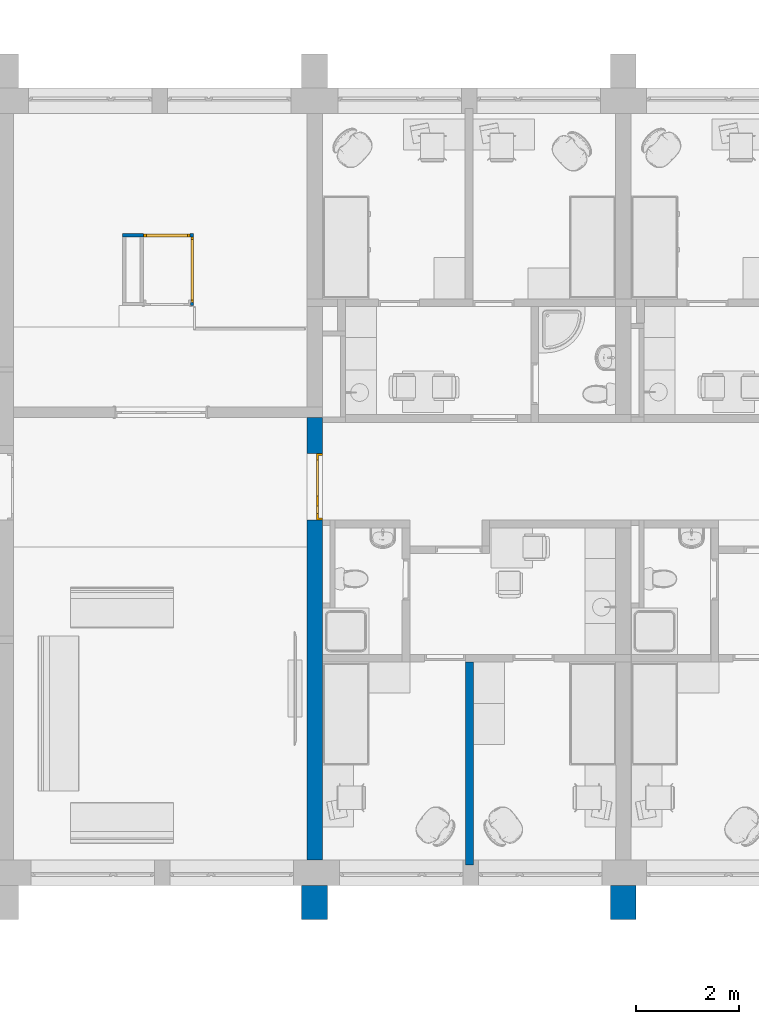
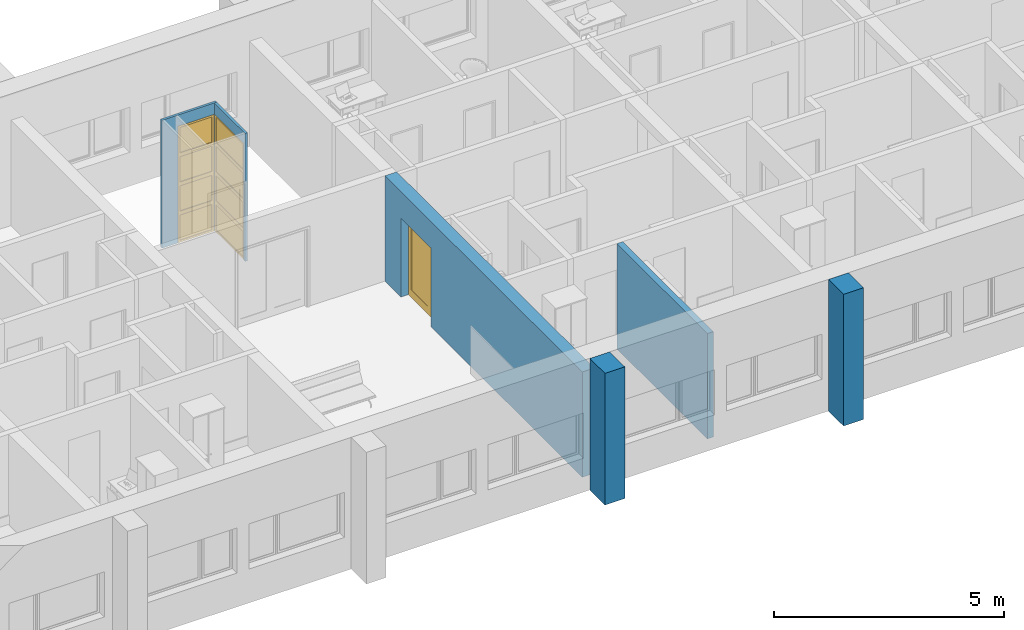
# One storey, part 15 of 152: 6 walls, 2 windows, 1 door, 3 openings.
"""IFC2X3 building model written with IfcOpenShell, lengths in millimetres."""

from ifc_helpers import new_model, entity, si_unit, converted_unit, money_unit, direction, frame, origin_with_axes, place, context, subcontext, project, spatial, polyline, outline, extrude, open_shell, faceted_brep, surface_model, source, transform, mapped, material, material_list, layer, layer_set, layer_usage, type_object, element, fill, save


model = new_model("IFC2X3")

# Units and contexts
model_context = context("Model", 3, precision=1e-05, world=origin_with_axes(), true_north=direction((0.0, 1.0)))
body_context = subcontext(model_context, "Body", "Model", "MODEL_VIEW")
ifc_project = project(units=[si_unit("LENGTHUNIT", "METRE", prefix="MILLI"), si_unit("AREAUNIT", "SQUARE_METRE"), si_unit("VOLUMEUNIT", "CUBIC_METRE"), converted_unit("PLANEANGLEUNIT", "DEGREE", entity("IfcPlaneAngleMeasure", 0.0174532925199), si_unit("PLANEANGLEUNIT", "RADIAN"), dimensions=[0, 0, 0, 0, 0, 0, 0]), si_unit("SOLIDANGLEUNIT", "STERADIAN"), money_unit("USD"), converted_unit("TIMEUNIT", "Year", entity("IfcTimeMeasure", 31556926.0), si_unit("TIMEUNIT", "SECOND"), dimensions=[0, 0, 0, 0, 0, 0, 0]), si_unit("MASSUNIT", "GRAM"), si_unit("THERMODYNAMICTEMPERATUREUNIT", "DEGREE_CELSIUS"), si_unit("LUMINOUSINTENSITYUNIT", "LUMEN")], contexts=[model_context])

# Site, building, storey
site_placement = place(None, origin_with_axes())
site = spatial("IfcSite", under=ifc_project, at=site_placement, Name="Site", CompositionType="ELEMENT")
building_placement = place(site_placement, origin_with_axes())
building = spatial("IfcBuilding", under=site, at=building_placement, Name="Building", CompositionType="ELEMENT")
storey_placement = place(building_placement, frame((0.0, 0.0, 9500.0), z_axis=(0.0, 0.0, 1.0), x_axis=(1.0, 0.0, 0.0)))
storey = spatial("IfcBuildingStorey", under=building, at=storey_placement, Name="5KORRUS", CompositionType="ELEMENT", Elevation=9500.0)

# Walls
ifc_material_1 = material(Name="Olemasolevad seinad tellis, uus viimistlus")
ifc_layer_1 = layer(ifc_material_1, 500.0, ventilated="UNKNOWN")
ifc_layer_set_1 = layer_set([ifc_layer_1], Name="Olemasolevad seinad tellis, uus viimistlus 500")
ifc_layer_usage_1 = layer_usage(ifc_layer_set_1, "AXIS2", "POSITIVE", -100.0)
wall_type_1 = type_object("IfcWallType", Name="Olemasolevad seinad tellis, uus viimistlus 500", PredefinedType="NOTDEFINED")
wall_1_placement = place(storey_placement, frame((-5990.29670331, -20796.6419407, 0.0), z_axis=(0.0, 0.0, 1.0), x_axis=(0.0, 1.0, 0.0)))
element("IfcWallStandardCase", 1, at=wall_1_placement, inside=storey, type_object=wall_type_1, material=ifc_layer_usage_1, Name="VS1", ObjectType="VS1", context=body_context, shape_type="SweptSolid", body=[
    extrude(outline(polyline([(0.0, -100.0), (657.402041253, -100.0), (657.402041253, 400.0), (0.0, 400.0), (0.0, -100.0)])), origin_with_axes(), (0.0, 0.0, 1.0), 3500.0),
])
ifc_layer_usage_2 = layer_usage(ifc_layer_set_1, "AXIS2", "POSITIVE", -100.0)
wall_2_placement = place(storey_placement, frame((9.70329668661, -20796.6419407, 0.0), z_axis=(0.0, 0.0, 1.0), x_axis=(0.0, 1.0, 0.0)))
element("IfcWallStandardCase", 2, at=wall_2_placement, inside=storey, type_object=wall_type_1, material=ifc_layer_usage_2, Name="VS1", ObjectType="VS1", context=body_context, shape_type="SweptSolid", body=[
    extrude(outline(polyline([(0.0, -100.0), (657.402041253, -100.0), (657.402041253, 400.0), (0.0, 400.0), (0.0, -100.0)])), origin_with_axes(), (0.0, 0.0, 1.0), 3500.0),
])
ifc_material_2 = material(Name="UmbKipsplaat")
ifc_layer_2 = layer(ifc_material_2, 13.0, ventilated="UNKNOWN")
ifc_layer_3 = layer(ifc_material_2, 13.0, ventilated="UNKNOWN")
ifc_material_3 = material(Name="SOOJUSTUS MINERAALVILL")
ifc_layer_4 = layer(ifc_material_3, 98.0, ventilated="UNKNOWN")
ifc_layer_5 = layer(ifc_material_2, 13.0, ventilated="UNKNOWN")
ifc_layer_6 = layer(ifc_material_2, 13.0, ventilated="UNKNOWN")
ifc_layer_set_2 = layer_set([ifc_layer_2, ifc_layer_3, ifc_layer_4, ifc_layer_5, ifc_layer_6], Name="kipssein150")
ifc_layer_usage_3 = layer_usage(ifc_layer_set_2, "AXIS2", "POSITIVE", -150.0)
wall_type_2 = type_object("IfcWallType", Name="kipssein150 150", PredefinedType="NOTDEFINED")
wall_3_placement = place(storey_placement, frame((-3203.00830795, -19739.2398994, 0.0), z_axis=(0.0, 0.0, 1.0), x_axis=(0.0, 1.0, 0.0)))
element("IfcWallStandardCase", 3, at=wall_3_placement, inside=storey, type_object=wall_type_2, material=ifc_layer_usage_3, Name="SS1", ObjectType="SS1", context=body_context, shape_type="SweptSolid", body=[
    extrude(outline(polyline([(0.0, -150.0), (3942.67282873, -150.0), (3942.67282873, 0.0), (0.0, 0.0), (0.0, -150.0)])), origin_with_axes(), (0.0, 0.0, 1.0), 2800.0),
])

# Wall, opening, door
ifc_material_4 = material(Name="Olemasolevad seinad tellis, uus viimistlus")
ifc_layer_7 = layer(ifc_material_4, 300.0, ventilated="UNKNOWN")
ifc_layer_set_3 = layer_set([ifc_layer_7], Name="Olemasolevad seinad tellis, uus viimistlus  300")
ifc_layer_usage_4 = layer_usage(ifc_layer_set_3, "AXIS2", "POSITIVE", 0.0)
wall_type_3 = type_object("IfcWallType", Name="Olemasolevad seinad tellis, uus viimistlus  300", PredefinedType="NOTDEFINED")
wall_4_placement = place(storey_placement, frame((-5990.29670331, -19639.2398994, 0.0), z_axis=(0.0, 0.0, 1.0), x_axis=(0.0, 1.0, 0.0)))
wall_4 = element("IfcWallStandardCase", 4, at=wall_4_placement, inside=storey, type_object=wall_type_3, material=ifc_layer_usage_4, Name="KS1", ObjectType="KS1", context=body_context, shape_type="SweptSolid", body=[
    extrude(outline(polyline([(0.0, 0.0), (8599.63579061, 0.0), (8599.63579061, 300.0), (0.0, 300.0), (0.0, 0.0)])), origin_with_axes(), (0.0, 0.0, 1.0), 2800.0),
])
opening_1_placement = place(wall_4_placement, frame((7250.0, 0.0, 0.0), z_axis=(0.0, 0.0, 1.0), x_axis=(1.0, 0.0, 0.0)))
opening_1 = element("IfcOpeningElement", 5, at=opening_1_placement, cuts=wall_4, Name="SU4-22", context=body_context, shape_type="SweptSolid", body=[
    extrude(outline(polyline([(-650.0, 0.0), (650.0, 0.0), (650.0, 2100.0), (-650.0, 2100.0), (-650.0, 0.0)])), frame((0.0, 300.0, 0.0), z_axis=(0.0, -1.0, 0.0), x_axis=(1.0, 0.0, 0.0)), (0.0, 0.0, 1.0), 900.0),
])
ifc_material_5 = material(Name="Background")
ifc_material_list = material_list([ifc_material_5])
door_style = type_object("IfcDoorStyle", Name="Double Door Asymmetric 19", ConstructionType="NOTDEFINED", OperationType="DOUBLE_DOOR_SINGLE_SWING", ParameterTakesPrecedence=False, Sizeable=False)
shared_shape_1 = source(origin_with_axes(), body_context, "Body", "SurfaceModel", [
    faceted_brep([(-610.0, -225.0, 0.0), (-610.0, -225.0, 2060.0), (-610.0, -300.0, 2060.0), (-610.0, -300.0, 0.0), (-622.0, -225.0, 2060.0), (-622.0, -225.0, 0.0), (-622.0, -185.0, 2060.0), (-650.0, -185.0, 2060.0), (-650.0, -300.0, 2060.0), (-650.0, -300.0, 0.0), (-650.0, -185.0, 0.0), (-622.0, -185.0, 0.0)], [[[0, 1, 2, 3]], [[4, 1, 0, 5]], [[4, 6, 7, 8, 2, 1]], [[2, 8, 9, 3]], [[5, 0, 3, 9, 10, 11]], [[6, 4, 5, 11]], [[6, 11, 10, 7]], [[9, 8, 7, 10]]]),
    faceted_brep([(622.0, -225.0, 2060.0), (610.0, -225.0, 2060.0), (610.0, -300.0, 2060.0), (650.0, -300.0, 2060.0), (650.0, -185.0, 2060.0), (622.0, -185.0, 2060.0), (622.0, -225.0, 0.0), (610.0, -225.0, 0.0), (610.0, -300.0, 0.0), (650.0, -300.0, 0.0), (650.0, -185.0, 0.0), (622.0, -185.0, 0.0)], [[[0, 1, 2, 3, 4, 5]], [[1, 0, 6, 7]], [[1, 7, 8, 2]], [[2, 8, 9, 3]], [[3, 9, 10, 4]], [[11, 5, 4, 10]], [[0, 5, 11, 6]], [[6, 11, 10, 9, 8, 7]]]),
    faceted_brep([(-622.0, -185.0, 2072.0), (-622.0, -185.0, 2060.0), (-650.0, -185.0, 2060.0), (-650.0, -185.0, 2100.0), (650.0, -185.0, 2100.0), (650.0, -185.0, 2060.0), (622.0, -185.0, 2060.0), (622.0, -185.0, 2072.0), (-622.0, -225.0, 2072.0), (-622.0, -225.0, 2060.0), (-610.0, -225.0, 2060.0), (-610.0, -300.0, 2060.0), (-650.0, -300.0, 2060.0), (-650.0, -300.0, 2100.0), (650.0, -300.0, 2100.0), (650.0, -300.0, 2060.0), (622.0, -225.0, 2060.0), (610.0, -300.0, 2060.0), (610.0, -225.0, 2060.0), (622.0, -225.0, 2072.0)], [[[0, 1, 2, 3, 4, 5, 6, 7]], [[1, 0, 8, 9]], [[9, 10, 11, 12, 2, 1]], [[12, 13, 3, 2]], [[13, 14, 4, 3]], [[14, 15, 5, 4]], [[16, 6, 5, 15, 17, 18]], [[7, 6, 16, 19]], [[0, 7, 19, 8]], [[16, 18, 10, 9, 8, 19]], [[10, 18, 17, 11]], [[15, 14, 13, 12, 11, 17]]]),
    faceted_brep([(622.0, -185.0, 200.0), (622.0, -225.0, 200.0), (522.0, -225.0, 200.0), (522.0, -185.0, 200.0), (622.0, -185.0, 1972.0), (622.0, -225.0, 1972.0), (522.0, -225.0, 1972.0), (522.0, -185.0, 1972.0)], [[[0, 1, 2, 3]], [[4, 5, 1, 0]], [[1, 5, 6, 2]], [[3, 2, 6, 7]], [[0, 3, 7, 4]], [[7, 6, 5, 4]]]),
    faceted_brep([(-278.0, -185.0, 200.0), (-278.0, -225.0, 200.0), (-278.0, -225.0, 1972.0), (-278.0, -185.0, 1972.0), (-178.0, -185.0, 200.0), (-178.0, -225.0, 200.0), (-178.0, -225.0, 1972.0), (-178.0, -185.0, 1972.0)], [[[0, 1, 2, 3]], [[4, 5, 1, 0]], [[1, 5, 6, 2]], [[3, 2, 6, 7]], [[0, 3, 7, 4]], [[7, 6, 5, 4]]]),
    faceted_brep([(622.0, -185.0, 0.0), (622.0, -225.0, 0.0), (-278.0, -225.0, 0.0), (-278.0, -185.0, 0.0), (622.0, -185.0, 200.0), (622.0, -225.0, 200.0), (522.0, -225.0, 200.0), (-178.0, -225.0, 200.0), (-278.0, -225.0, 200.0), (-278.0, -185.0, 200.0), (-178.0, -185.0, 200.0), (522.0, -185.0, 200.0)], [[[0, 1, 2, 3]], [[4, 5, 1, 0]], [[1, 5, 6, 7, 8, 2]], [[3, 2, 8, 9]], [[0, 3, 9, 10, 11, 4]], [[11, 6, 5, 4]], [[10, 7, 6, 11]], [[9, 8, 7, 10]]]),
    faceted_brep([(622.0, -185.0, 2072.0), (622.0, -225.0, 2072.0), (622.0, -225.0, 1972.0), (622.0, -185.0, 1972.0), (-278.0, -185.0, 2072.0), (-278.0, -225.0, 2072.0), (-278.0, -225.0, 1972.0), (-178.0, -225.0, 1972.0), (522.0, -225.0, 1972.0), (522.0, -185.0, 1972.0), (-178.0, -185.0, 1972.0), (-278.0, -185.0, 1972.0)], [[[0, 1, 2, 3]], [[4, 5, 1, 0]], [[1, 5, 6, 7, 8, 2]], [[3, 2, 8, 9]], [[0, 3, 9, 10, 11, 4]], [[11, 6, 5, 4]], [[10, 7, 6, 11]], [[9, 8, 7, 10]]]),
    surface_model("IfcShellBasedSurfaceModel", [(522.0, -199.0, 200.0), (-178.0, -199.0, 200.0), (-178.0, -199.0, 1972.0), (522.0, -199.0, 1972.0)], [open_shell([[[0, 1, 2, 3]]])]),
    surface_model("IfcShellBasedSurfaceModel", [(522.0, -211.0, 200.0), (522.0, -211.0, 1972.0), (-178.0, -211.0, 1972.0), (-178.0, -211.0, 200.0)], [open_shell([[[0, 1, 2, 3]]])]),
    faceted_brep([(-622.0, -185.0, 200.0), (-522.0, -185.0, 200.0), (-522.0, -225.0, 200.0), (-622.0, -225.0, 200.0), (-622.0, -185.0, 1972.0), (-522.0, -185.0, 1972.0), (-522.0, -225.0, 1972.0), (-622.0, -225.0, 1972.0)], [[[0, 1, 2, 3]], [[0, 4, 5, 1]], [[1, 5, 6, 2]], [[3, 2, 6, 7]], [[4, 0, 3, 7]], [[5, 4, 7, 6]]]),
    faceted_brep([(-278.0, -185.0, 200.0), (-278.0, -185.0, 1972.0), (-278.0, -225.0, 1972.0), (-278.0, -225.0, 200.0), (-378.0, -185.0, 200.0), (-378.0, -185.0, 1972.0), (-378.0, -225.0, 1972.0), (-378.0, -225.0, 200.0)], [[[0, 1, 2, 3]], [[0, 4, 5, 1]], [[1, 5, 6, 2]], [[3, 2, 6, 7]], [[4, 0, 3, 7]], [[5, 4, 7, 6]]]),
    faceted_brep([(-622.0, -185.0, 0.0), (-278.0, -185.0, 0.0), (-278.0, -225.0, 0.0), (-622.0, -225.0, 0.0), (-622.0, -185.0, 200.0), (-522.0, -185.0, 200.0), (-378.0, -185.0, 200.0), (-278.0, -185.0, 200.0), (-278.0, -225.0, 200.0), (-378.0, -225.0, 200.0), (-522.0, -225.0, 200.0), (-622.0, -225.0, 200.0)], [[[0, 1, 2, 3]], [[0, 4, 5, 6, 7, 1]], [[1, 7, 8, 2]], [[3, 2, 8, 9, 10, 11]], [[4, 0, 3, 11]], [[5, 4, 11, 10]], [[6, 5, 10, 9]], [[7, 6, 9, 8]]]),
    faceted_brep([(-622.0, -185.0, 2072.0), (-622.0, -185.0, 1972.0), (-622.0, -225.0, 1972.0), (-622.0, -225.0, 2072.0), (-278.0, -185.0, 2072.0), (-278.0, -185.0, 1972.0), (-378.0, -185.0, 1972.0), (-522.0, -185.0, 1972.0), (-522.0, -225.0, 1972.0), (-378.0, -225.0, 1972.0), (-278.0, -225.0, 1972.0), (-278.0, -225.0, 2072.0)], [[[0, 1, 2, 3]], [[0, 4, 5, 6, 7, 1]], [[1, 7, 8, 2]], [[3, 2, 8, 9, 10, 11]], [[4, 0, 3, 11]], [[5, 4, 11, 10]], [[6, 5, 10, 9]], [[7, 6, 9, 8]]]),
    surface_model("IfcShellBasedSurfaceModel", [(-522.0, -199.0, 200.0), (-522.0, -199.0, 1972.0), (-378.0, -199.0, 1972.0), (-378.0, -199.0, 200.0)], [open_shell([[[0, 1, 2, 3]]])]),
    surface_model("IfcShellBasedSurfaceModel", [(-522.0, -211.0, 200.0), (-378.0, -211.0, 200.0), (-378.0, -211.0, 1972.0), (-522.0, -211.0, 1972.0)], [open_shell([[[0, 1, 2, 3]]])]),
])
door_placement = place(opening_1_placement, frame((-650.0, 0.0, 0.0), z_axis=(0.0, 0.0, 1.0), x_axis=(1.0, 0.0, 0.0)))
door = element("IfcDoor", 6, at=door_placement, inside=storey, type_object=door_style, material=ifc_material_list, Name="SU4-22", ObjectType="Trepkoja uks", OverallHeight=2100.0, OverallWidth=1300.0, context=body_context, shape_type="MappedRepresentation", body=[
    mapped(shared_shape_1, transform((650.0, 300.0, 0.0))),
])
fill(opening_1, door)

# Wall, opening, window
ifc_material_6 = material(Name="Terasprofiil")
ifc_layer_8 = layer(ifc_material_6, 60.0, ventilated="UNKNOWN")
ifc_layer_set_4 = layer_set([ifc_layer_8], Name="Terasprofiil 60")
ifc_layer_usage_5 = layer_usage(ifc_layer_set_4, "AXIS2", "POSITIVE", 0.0)
wall_type_4 = type_object("IfcWallType", Name="Terasprofiil 60", PredefinedType="NOTDEFINED")
wall_5_placement = place(storey_placement, frame((-8491.93119318, -7470.64352695, 0.0), z_axis=(0.0, 0.0, 1.0), x_axis=(-1.0, 0.0, 0.0)))
wall_5 = element("IfcWallStandardCase", 7, at=wall_5_placement, inside=storey, type_object=wall_type_4, material=ifc_layer_usage_5, Name="LS1", ObjectType="Lifti sein", context=body_context, shape_type="SweptSolid", body=[
    extrude(outline(polyline([(0.0, 0.0), (1377.47535316, 0.0), (1377.47535316, 60.0), (0.0, 60.0), (0.0, 0.0)])), origin_with_axes(), (0.0, 0.0, 1.0), 3400.0),
])
opening_2_placement = place(wall_5_placement, frame((518.737676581, 0.0, 0.0), z_axis=(0.0, 0.0, 1.0), x_axis=(1.0, 0.0, 0.0)))
opening_2 = element("IfcOpeningElement", 8, at=opening_2_placement, cuts=wall_5, Name="Lifti klaassein", context=body_context, shape_type="SweptSolid", body=[
    extrude(outline(polyline([(-450.0, 0.0), (450.0, 0.0), (450.0, 3100.0), (-450.0, 3100.0), (-450.0, 0.0)])), frame((0.0, -60.0, 0.0), z_axis=(0.0, 1.0, 0.0), x_axis=(-1.0, 0.0, 0.0)), (0.0, 0.0, 1.0), 180.0),
])
window_style = type_object("IfcWindowStyle", Name="Vertical Multi-Sash Window 19", ConstructionType="NOTDEFINED", OperationType="USERDEFINED", ParameterTakesPrecedence=False, Sizeable=False)
shared_shape_2 = source(origin_with_axes(), body_context, "Body", "SurfaceModel", [
    faceted_brep([(-400.0, -60.0, 3050.0), (-400.0, -10.0, 3050.0), (-450.0, -10.0, 3050.0), (-450.0, -60.0, 3050.0), (-400.0, -60.0, 2375.0), (-400.0, -10.0, 2375.0), (-400.0, -10.0, 2275.0), (-400.0, -10.0, 1600.0), (-400.0, -10.0, 1500.0), (-400.0, -10.0, 825.0), (-400.0, -10.0, 725.0), (-400.0, -10.0, 50.0), (-450.0, -10.0, 50.0), (-450.0, -60.0, 50.0), (-400.0, -60.0, 50.0), (-400.0, -60.0, 725.0), (-400.0, -60.0, 825.0), (-400.0, -60.0, 1500.0), (-400.0, -60.0, 1600.0), (-400.0, -60.0, 2275.0)], [[[0, 1, 2, 3]], [[4, 5, 1, 0]], [[1, 5, 6, 7, 8, 9, 10, 11, 12, 2]], [[3, 2, 12, 13]], [[0, 3, 13, 14, 15, 16, 17, 18, 19, 4]], [[19, 6, 5, 4]], [[18, 7, 6, 19]], [[17, 8, 7, 18]], [[16, 9, 8, 17]], [[15, 10, 9, 16]], [[14, 11, 10, 15]], [[13, 12, 11, 14]]]),
    faceted_brep([(400.0, -60.0, 2375.0), (400.0, -10.0, 2375.0), (400.0, -10.0, 2275.0), (400.0, -60.0, 2275.0), (400.0, -60.0, 3050.0), (400.0, -10.0, 3050.0), (450.0, -10.0, 3050.0), (450.0, -10.0, 50.0), (400.0, -10.0, 50.0), (400.0, -10.0, 725.0), (400.0, -10.0, 825.0), (400.0, -10.0, 1500.0), (400.0, -10.0, 1600.0), (400.0, -60.0, 1600.0), (400.0, -60.0, 1500.0), (400.0, -60.0, 825.0), (400.0, -60.0, 725.0), (400.0, -60.0, 50.0), (450.0, -60.0, 50.0), (450.0, -60.0, 3050.0)], [[[0, 1, 2, 3]], [[4, 5, 1, 0]], [[1, 5, 6, 7, 8, 9, 10, 11, 12, 2]], [[3, 2, 12, 13]], [[0, 3, 13, 14, 15, 16, 17, 18, 19, 4]], [[19, 6, 5, 4]], [[18, 7, 6, 19]], [[17, 8, 7, 18]], [[16, 9, 8, 17]], [[15, 10, 9, 16]], [[14, 11, 10, 15]], [[13, 12, 11, 14]]]),
    faceted_brep([(400.0, -60.0, 3050.0), (400.0, -10.0, 3050.0), (450.0, -10.0, 3050.0), (450.0, -60.0, 3050.0), (-400.0, -60.0, 3050.0), (-400.0, -10.0, 3050.0), (-450.0, -10.0, 3050.0), (-450.0, -10.0, 3100.0), (450.0, -10.0, 3100.0), (450.0, -60.0, 3100.0), (-450.0, -60.0, 3100.0), (-450.0, -60.0, 3050.0)], [[[0, 1, 2, 3]], [[4, 5, 1, 0]], [[1, 5, 6, 7, 8, 2]], [[3, 2, 8, 9]], [[0, 3, 9, 10, 11, 4]], [[11, 6, 5, 4]], [[10, 7, 6, 11]], [[9, 8, 7, 10]]]),
    faceted_brep([(-400.0, -60.0, 50.0), (-400.0, -10.0, 50.0), (-450.0, -10.0, 50.0), (-450.0, -60.0, 50.0), (400.0, -60.0, 50.0), (400.0, -10.0, 50.0), (450.0, -10.0, 50.0), (450.0, -10.0, 0.0), (-450.0, -10.0, 0.0), (-450.0, -60.0, 0.0), (450.0, -60.0, 0.0), (450.0, -60.0, 50.0)], [[[0, 1, 2, 3]], [[4, 5, 1, 0]], [[1, 5, 6, 7, 8, 2]], [[3, 2, 8, 9]], [[0, 3, 9, 10, 11, 4]], [[11, 6, 5, 4]], [[10, 7, 6, 11]], [[9, 8, 7, 10]]]),
    faceted_brep([(400.0, -60.0, 825.0), (400.0, -10.0, 825.0), (-400.0, -10.0, 825.0), (-400.0, -60.0, 825.0), (400.0, -60.0, 725.0), (400.0, -10.0, 725.0), (-400.0, -10.0, 725.0), (-400.0, -60.0, 725.0)], [[[0, 1, 2, 3]], [[4, 5, 1, 0]], [[1, 5, 6, 2]], [[3, 2, 6, 7]], [[0, 3, 7, 4]], [[7, 6, 5, 4]]]),
    faceted_brep([(400.0, -60.0, 1600.0), (400.0, -10.0, 1600.0), (-400.0, -10.0, 1600.0), (-400.0, -60.0, 1600.0), (400.0, -60.0, 1500.0), (400.0, -10.0, 1500.0), (-400.0, -10.0, 1500.0), (-400.0, -60.0, 1500.0)], [[[0, 1, 2, 3]], [[4, 5, 1, 0]], [[1, 5, 6, 2]], [[3, 2, 6, 7]], [[0, 3, 7, 4]], [[7, 6, 5, 4]]]),
    faceted_brep([(400.0, -60.0, 2375.0), (400.0, -10.0, 2375.0), (-400.0, -10.0, 2375.0), (-400.0, -60.0, 2375.0), (400.0, -60.0, 2275.0), (400.0, -10.0, 2275.0), (-400.0, -10.0, 2275.0), (-400.0, -60.0, 2275.0)], [[[0, 1, 2, 3]], [[4, 5, 1, 0]], [[1, 5, 6, 2]], [[3, 2, 6, 7]], [[0, 3, 7, 4]], [[7, 6, 5, 4]]]),
    surface_model("IfcShellBasedSurfaceModel", [(-400.0, -45.0, 50.0), (400.0, -45.0, 50.0), (400.0, -45.0, 725.0), (-400.0, -45.0, 725.0)], [open_shell([[[0, 1, 2, 3]]])]),
    surface_model("IfcShellBasedSurfaceModel", [(-400.0, -25.0, 50.0), (-400.0, -25.0, 725.0), (400.0, -25.0, 725.0), (400.0, -25.0, 50.0)], [open_shell([[[0, 1, 2, 3]]])]),
    surface_model("IfcShellBasedSurfaceModel", [(-400.0, -45.0, 825.0), (400.0, -45.0, 825.0), (400.0, -45.0, 1500.0), (-400.0, -45.0, 1500.0)], [open_shell([[[0, 1, 2, 3]]])]),
    surface_model("IfcShellBasedSurfaceModel", [(-400.0, -25.0, 825.0), (-400.0, -25.0, 1500.0), (400.0, -25.0, 1500.0), (400.0, -25.0, 825.0)], [open_shell([[[0, 1, 2, 3]]])]),
    surface_model("IfcShellBasedSurfaceModel", [(-400.0, -45.0, 1600.0), (400.0, -45.0, 1600.0), (400.0, -45.0, 2275.0), (-400.0, -45.0, 2275.0)], [open_shell([[[0, 1, 2, 3]]])]),
    surface_model("IfcShellBasedSurfaceModel", [(-400.0, -25.0, 1600.0), (-400.0, -25.0, 2275.0), (400.0, -25.0, 2275.0), (400.0, -25.0, 1600.0)], [open_shell([[[0, 1, 2, 3]]])]),
    surface_model("IfcShellBasedSurfaceModel", [(-400.0, -45.0, 2375.0), (400.0, -45.0, 2375.0), (400.0, -45.0, 3050.0), (-400.0, -45.0, 3050.0)], [open_shell([[[0, 1, 2, 3]]])]),
    surface_model("IfcShellBasedSurfaceModel", [(-400.0, -25.0, 2375.0), (-400.0, -25.0, 3050.0), (400.0, -25.0, 3050.0), (400.0, -25.0, 2375.0)], [open_shell([[[0, 1, 2, 3]]])]),
])
window_1_placement = place(opening_2_placement, frame((450.0, 0.0, 0.0), z_axis=(0.0, 0.0, 1.0), x_axis=(-1.0, 0.0, 0.0)))
window_1 = element("IfcWindow", 9, at=window_1_placement, inside=storey, type_object=window_style, material=ifc_material_list, Name="Lifti klaassein", ObjectType="WINDOW", OverallHeight=3100.0, OverallWidth=900.0, context=body_context, shape_type="MappedRepresentation", body=[
    mapped(shared_shape_2, transform((450.0, 0.0, 0.0))),
])
fill(opening_2, window_1)

ifc_layer_usage_6 = layer_usage(ifc_layer_set_4, "AXIS2", "POSITIVE", -60.0)
wall_6_placement = place(storey_placement, frame((-8491.93119318, -7470.64352695, 0.0), z_axis=(0.0, 0.0, 1.0), x_axis=(0.0, -1.0, 0.0)))
wall_6 = element("IfcWallStandardCase", 10, at=wall_6_placement, inside=storey, type_object=wall_type_4, material=ifc_layer_usage_6, Name="LS1", ObjectType="Lifti sein", context=body_context, shape_type="SweptSolid", body=[
    extrude(outline(polyline([(0.0, -60.0), (1400.0, -60.0), (1400.0, 0.0), (0.0, 0.0), (0.0, -60.0)])), origin_with_axes(), (0.0, 0.0, 1.0), 3400.0),
])
opening_3_placement = place(wall_6_placement, frame((700.0, 0.0, 0.0), z_axis=(0.0, 0.0, 1.0), x_axis=(1.0, 0.0, 0.0)))
opening_3 = element("IfcOpeningElement", 11, at=opening_3_placement, cuts=wall_6, Name="Lifti klaassein", context=body_context, shape_type="SweptSolid", body=[
    extrude(outline(polyline([(640.0, -3100.0), (640.0, 0.0), (-640.0, 0.0), (-640.0, -3100.0), (640.0, -3100.0)])), frame((0.0, -60.0, 0.0), z_axis=(0.0, 1.0, 0.0), x_axis=(1.0, 0.0, 0.0)), (0.0, 0.0, 1.0), 180.0),
])
shared_shape_3 = source(origin_with_axes(), body_context, "Body", "SurfaceModel", [
    faceted_brep([(590.0, -50.0, 3050.0), (640.0, -50.0, 3050.0), (640.0, 0.0, 3050.0), (590.0, 0.0, 3050.0), (590.0, -50.0, 2375.0), (590.0, -50.0, 2275.0), (590.0, -50.0, 1600.0), (590.0, -50.0, 1500.0), (590.0, -50.0, 825.0), (590.0, -50.0, 725.0), (590.0, -50.0, 50.0), (640.0, -50.0, 50.0), (640.0, 0.0, 50.0), (590.0, 0.0, 50.0), (590.0, 0.0, 725.0), (590.0, 0.0, 825.0), (590.0, 0.0, 1500.0), (590.0, 0.0, 1600.0), (590.0, 0.0, 2275.0), (590.0, 0.0, 2375.0)], [[[0, 1, 2, 3]], [[0, 4, 5, 6, 7, 8, 9, 10, 11, 1]], [[1, 11, 12, 2]], [[3, 2, 12, 13, 14, 15, 16, 17, 18, 19]], [[4, 0, 3, 19]], [[5, 4, 19, 18]], [[6, 5, 18, 17]], [[7, 6, 17, 16]], [[8, 7, 16, 15]], [[9, 8, 15, 14]], [[10, 9, 14, 13]], [[11, 10, 13, 12]]]),
    faceted_brep([(-590.0, -50.0, 2375.0), (-590.0, -50.0, 2275.0), (-590.0, 0.0, 2275.0), (-590.0, 0.0, 2375.0), (-590.0, -50.0, 3050.0), (-640.0, -50.0, 3050.0), (-640.0, -50.0, 50.0), (-590.0, -50.0, 50.0), (-590.0, -50.0, 725.0), (-590.0, -50.0, 825.0), (-590.0, -50.0, 1500.0), (-590.0, -50.0, 1600.0), (-590.0, 0.0, 1600.0), (-590.0, 0.0, 1500.0), (-590.0, 0.0, 825.0), (-590.0, 0.0, 725.0), (-590.0, 0.0, 50.0), (-640.0, 0.0, 50.0), (-640.0, 0.0, 3050.0), (-590.0, 0.0, 3050.0)], [[[0, 1, 2, 3]], [[0, 4, 5, 6, 7, 8, 9, 10, 11, 1]], [[1, 11, 12, 2]], [[3, 2, 12, 13, 14, 15, 16, 17, 18, 19]], [[4, 0, 3, 19]], [[5, 4, 19, 18]], [[6, 5, 18, 17]], [[7, 6, 17, 16]], [[8, 7, 16, 15]], [[9, 8, 15, 14]], [[10, 9, 14, 13]], [[11, 10, 13, 12]]]),
    faceted_brep([(-590.0, -50.0, 3050.0), (-640.0, -50.0, 3050.0), (-640.0, 0.0, 3050.0), (-590.0, 0.0, 3050.0), (590.0, -50.0, 3050.0), (640.0, -50.0, 3050.0), (640.0, -50.0, 3100.0), (-640.0, -50.0, 3100.0), (-640.0, 0.0, 3100.0), (640.0, 0.0, 3100.0), (640.0, 0.0, 3050.0), (590.0, 0.0, 3050.0)], [[[0, 1, 2, 3]], [[0, 4, 5, 6, 7, 1]], [[1, 7, 8, 2]], [[3, 2, 8, 9, 10, 11]], [[4, 0, 3, 11]], [[5, 4, 11, 10]], [[6, 5, 10, 9]], [[7, 6, 9, 8]]]),
    faceted_brep([(590.0, -50.0, 50.0), (640.0, -50.0, 50.0), (640.0, 0.0, 50.0), (590.0, 0.0, 50.0), (-590.0, -50.0, 50.0), (-640.0, -50.0, 50.0), (-640.0, -50.0, 0.0), (640.0, -50.0, 0.0), (640.0, 0.0, 0.0), (-640.0, 0.0, 0.0), (-640.0, 0.0, 50.0), (-590.0, 0.0, 50.0)], [[[0, 1, 2, 3]], [[0, 4, 5, 6, 7, 1]], [[1, 7, 8, 2]], [[3, 2, 8, 9, 10, 11]], [[4, 0, 3, 11]], [[5, 4, 11, 10]], [[6, 5, 10, 9]], [[7, 6, 9, 8]]]),
    faceted_brep([(-590.0, -50.0, 825.0), (590.0, -50.0, 825.0), (590.0, 0.0, 825.0), (-590.0, 0.0, 825.0), (-590.0, -50.0, 725.0), (590.0, -50.0, 725.0), (590.0, 0.0, 725.0), (-590.0, 0.0, 725.0)], [[[0, 1, 2, 3]], [[0, 4, 5, 1]], [[1, 5, 6, 2]], [[3, 2, 6, 7]], [[4, 0, 3, 7]], [[5, 4, 7, 6]]]),
    faceted_brep([(-590.0, -50.0, 1600.0), (590.0, -50.0, 1600.0), (590.0, 0.0, 1600.0), (-590.0, 0.0, 1600.0), (-590.0, -50.0, 1500.0), (590.0, -50.0, 1500.0), (590.0, 0.0, 1500.0), (-590.0, 0.0, 1500.0)], [[[0, 1, 2, 3]], [[0, 4, 5, 1]], [[1, 5, 6, 2]], [[3, 2, 6, 7]], [[4, 0, 3, 7]], [[5, 4, 7, 6]]]),
    faceted_brep([(-590.0, -50.0, 2375.0), (590.0, -50.0, 2375.0), (590.0, 0.0, 2375.0), (-590.0, 0.0, 2375.0), (-590.0, -50.0, 2275.0), (590.0, -50.0, 2275.0), (590.0, 0.0, 2275.0), (-590.0, 0.0, 2275.0)], [[[0, 1, 2, 3]], [[0, 4, 5, 1]], [[1, 5, 6, 2]], [[3, 2, 6, 7]], [[4, 0, 3, 7]], [[5, 4, 7, 6]]]),
    surface_model("IfcShellBasedSurfaceModel", [(590.0, -35.0, 50.0), (590.0, -35.0, 725.0), (-590.0, -35.0, 725.0), (-590.0, -35.0, 50.0)], [open_shell([[[0, 1, 2, 3]]])]),
    surface_model("IfcShellBasedSurfaceModel", [(590.0, -15.0, 50.0), (-590.0, -15.0, 50.0), (-590.0, -15.0, 725.0), (590.0, -15.0, 725.0)], [open_shell([[[0, 1, 2, 3]]])]),
    surface_model("IfcShellBasedSurfaceModel", [(590.0, -35.0, 825.0), (590.0, -35.0, 1500.0), (-590.0, -35.0, 1500.0), (-590.0, -35.0, 825.0)], [open_shell([[[0, 1, 2, 3]]])]),
    surface_model("IfcShellBasedSurfaceModel", [(590.0, -15.0, 825.0), (-590.0, -15.0, 825.0), (-590.0, -15.0, 1500.0), (590.0, -15.0, 1500.0)], [open_shell([[[0, 1, 2, 3]]])]),
    surface_model("IfcShellBasedSurfaceModel", [(590.0, -35.0, 1600.0), (590.0, -35.0, 2275.0), (-590.0, -35.0, 2275.0), (-590.0, -35.0, 1600.0)], [open_shell([[[0, 1, 2, 3]]])]),
    surface_model("IfcShellBasedSurfaceModel", [(590.0, -15.0, 1600.0), (-590.0, -15.0, 1600.0), (-590.0, -15.0, 2275.0), (590.0, -15.0, 2275.0)], [open_shell([[[0, 1, 2, 3]]])]),
    surface_model("IfcShellBasedSurfaceModel", [(590.0, -35.0, 2375.0), (590.0, -35.0, 3050.0), (-590.0, -35.0, 3050.0), (-590.0, -35.0, 2375.0)], [open_shell([[[0, 1, 2, 3]]])]),
    surface_model("IfcShellBasedSurfaceModel", [(590.0, -15.0, 2375.0), (-590.0, -15.0, 2375.0), (-590.0, -15.0, 3050.0), (590.0, -15.0, 3050.0)], [open_shell([[[0, 1, 2, 3]]])]),
])
window_2_placement = place(opening_3_placement, frame((-640.0, 0.0, 0.0), z_axis=(0.0, 0.0, 1.0), x_axis=(1.0, 0.0, 0.0)))
window_2 = element("IfcWindow", 12, at=window_2_placement, inside=storey, type_object=window_style, material=ifc_material_list, Name="Lifti klaassein", ObjectType="WINDOW", OverallHeight=3100.0, OverallWidth=1280.0, context=body_context, shape_type="MappedRepresentation", body=[
    mapped(shared_shape_3, transform((640.0, 0.0, 0.0))),
])
fill(opening_3, window_2)

save(model, "model.ifc")
